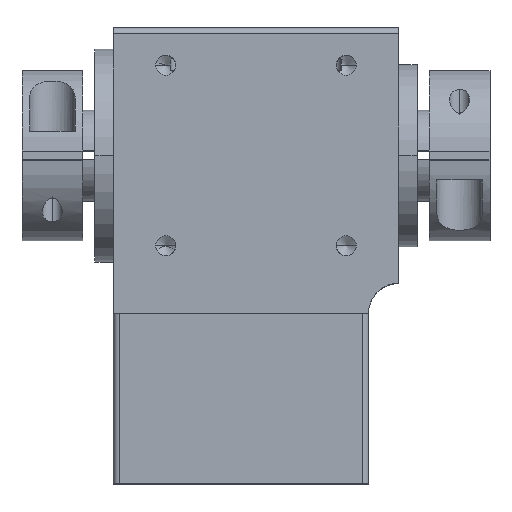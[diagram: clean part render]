
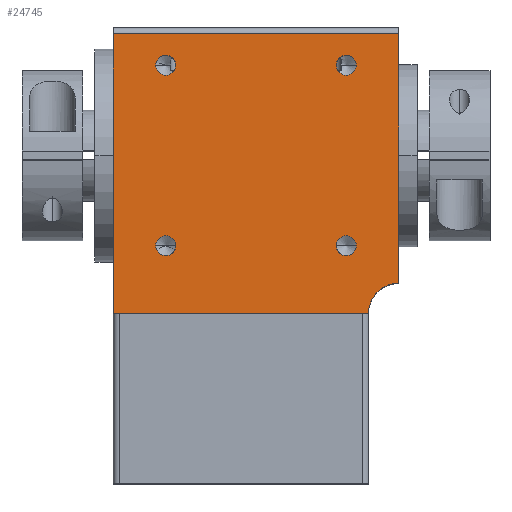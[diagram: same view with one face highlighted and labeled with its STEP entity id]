
A CAD part, top view. The second image highlights one B-rep face of the part: STEP entity #24745.
In plain terms, the highlighted planar face has unit normal (0, 0, 1).
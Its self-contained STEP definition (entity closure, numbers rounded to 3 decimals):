
#43 = ORIENTED_EDGE ( 'NONE', *, *, #6632, .F. ) ;
#171 = DIRECTION ( 'NONE',  ( 0., 0., 1. ) ) ;
#394 = VERTEX_POINT ( 'NONE', #6089 ) ;
#880 = VERTEX_POINT ( 'NONE', #6796 ) ;
#944 = FACE_BOUND ( 'NONE', #23118, .T. ) ;
#1065 = CARTESIAN_POINT ( 'NONE',  ( 42.999, -12.349, 21. ) ) ;
#1151 = CIRCLE ( 'NONE', #28722, 1.65 ) ;
#1329 = LINE ( 'NONE', #26981, #13124 ) ;
#1499 = VERTEX_POINT ( 'NONE', #7771 ) ;
#1557 = EDGE_CURVE ( 'NONE', #8214, #3549, #28753, .T. ) ;
#1926 = DIRECTION ( 'NONE',  ( 1., 0., 0. ) ) ;
#2414 = CARTESIAN_POINT ( 'NONE',  ( 13.301, -12.349, 21. ) ) ;
#3167 = DIRECTION ( 'NONE',  ( -1., 0., 0. ) ) ;
#3310 = DIRECTION ( 'NONE',  ( 0., 0., 1. ) ) ;
#3532 = DIRECTION ( 'NONE',  ( 0., 0., 1. ) ) ;
#3549 = VERTEX_POINT ( 'NONE', #27459 ) ;
#4368 = VERTEX_POINT ( 'NONE', #23194 ) ;
#4455 = ORIENTED_EDGE ( 'NONE', *, *, #13284, .T. ) ;
#4621 = DIRECTION ( 'NONE',  ( 0., -1., 0. ) ) ;
#4795 = CARTESIAN_POINT ( 'NONE',  ( 10.001, -12.349, 21. ) ) ;
#5255 = LINE ( 'NONE', #11683, #29557 ) ;
#5665 = CARTESIAN_POINT ( 'NONE',  ( 42.999, 17.349, 21. ) ) ;
#5843 = CIRCLE ( 'NONE', #6080, 1.65 ) ;
#6031 = CARTESIAN_POINT ( 'NONE',  ( 11.651, -12.349, 21. ) ) ;
#6080 = AXIS2_PLACEMENT_3D ( 'NONE', #20660, #6583, #23028 ) ;
#6089 = CARTESIAN_POINT ( 'NONE',  ( 3., -23.5, 21. ) ) ;
#6092 = ORIENTED_EDGE ( 'NONE', *, *, #1557, .F. ) ;
#6397 = VERTEX_POINT ( 'NONE', #2414 ) ;
#6441 = ORIENTED_EDGE ( 'NONE', *, *, #15487, .F. ) ;
#6549 = CARTESIAN_POINT ( 'NONE',  ( 41.349, -12.349, 21. ) ) ;
#6583 = DIRECTION ( 'NONE',  ( 0., 0., 1. ) ) ;
#6632 = EDGE_CURVE ( 'NONE', #394, #7435, #1329, .T. ) ;
#6643 = EDGE_LOOP ( 'NONE', ( #19310, #13927 ) ) ;
#6708 = CARTESIAN_POINT ( 'NONE',  ( 50., 22.5, 21. ) ) ;
#6796 = CARTESIAN_POINT ( 'NONE',  ( 39.699, 17.349, 21. ) ) ;
#7081 = EDGE_CURVE ( 'NONE', #25385, #6397, #7095, .T. ) ;
#7095 = CIRCLE ( 'NONE', #30418, 1.65 ) ;
#7135 = CIRCLE ( 'NONE', #22618, 1.65 ) ;
#7164 = DIRECTION ( 'NONE',  ( 0., 0., 1. ) ) ;
#7435 = VERTEX_POINT ( 'NONE', #11925 ) ;
#7574 = CIRCLE ( 'NONE', #8745, 1.65 ) ;
#7771 = CARTESIAN_POINT ( 'NONE',  ( 13.301, 17.349, 21. ) ) ;
#8214 = VERTEX_POINT ( 'NONE', #26608 ) ;
#8257 = DIRECTION ( 'NONE',  ( -1., 0., 0. ) ) ;
#8279 = CARTESIAN_POINT ( 'NONE',  ( 41.349, 17.349, 21. ) ) ;
#8389 = DIRECTION ( 'NONE',  ( 1., 0., 0. ) ) ;
#8666 = LINE ( 'NONE', #24786, #20458 ) ;
#8745 = AXIS2_PLACEMENT_3D ( 'NONE', #21258, #7164, #23622 ) ;
#8792 = AXIS2_PLACEMENT_3D ( 'NONE', #17417, #3310, #19792 ) ;
#8885 = DIRECTION ( 'NONE',  ( 1., 0., 0. ) ) ;
#8902 = ORIENTED_EDGE ( 'NONE', *, *, #19502, .F. ) ;
#10192 = VERTEX_POINT ( 'NONE', #6708 ) ;
#10636 = DIRECTION ( 'NONE',  ( 1., 0., 0. ) ) ;
#10749 = EDGE_CURVE ( 'NONE', #4368, #1499, #5843, .T. ) ;
#10862 = CIRCLE ( 'NONE', #28889, 1.65 ) ;
#11683 = CARTESIAN_POINT ( 'NONE',  ( 50., -23.5, 21. ) ) ;
#11925 = CARTESIAN_POINT ( 'NONE',  ( 3., 22.5, 21. ) ) ;
#13124 = VECTOR ( 'NONE', #29362, 1000. ) ;
#13284 = EDGE_CURVE ( 'NONE', #10192, #7435, #16806, .T. ) ;
#13509 = FACE_BOUND ( 'NONE', #14699, .T. ) ;
#13927 = ORIENTED_EDGE ( 'NONE', *, *, #26119, .F. ) ;
#13994 = AXIS2_PLACEMENT_3D ( 'NONE', #6031, #22477, #8389 ) ;
#14291 = CARTESIAN_POINT ( 'NONE',  ( 11.651, 17.349, 21. ) ) ;
#14484 = ORIENTED_EDGE ( 'NONE', *, *, #24585, .F. ) ;
#14503 = ORIENTED_EDGE ( 'NONE', *, *, #30523, .F. ) ;
#14699 = EDGE_LOOP ( 'NONE', ( #14732, #19360 ) ) ;
#14732 = ORIENTED_EDGE ( 'NONE', *, *, #29674, .F. ) ;
#14765 = VERTEX_POINT ( 'NONE', #5665 ) ;
#15301 = VERTEX_POINT ( 'NONE', #24979 ) ;
#15487 = EDGE_CURVE ( 'NONE', #14765, #880, #7574, .T. ) ;
#16059 = DIRECTION ( 'NONE',  ( 0., 0., 1. ) ) ;
#16669 = DIRECTION ( 'NONE',  ( 1., 0., 0. ) ) ;
#16806 = LINE ( 'NONE', #24735, #28563 ) ;
#17206 = AXIS2_PLACEMENT_3D ( 'NONE', #28996, #17272, #3167 ) ;
#17272 = DIRECTION ( 'NONE',  ( 0., 0., -1. ) ) ;
#17417 = CARTESIAN_POINT ( 'NONE',  ( 50., -23.5, 21. ) ) ;
#17643 = CARTESIAN_POINT ( 'NONE',  ( 11.651, -12.349, 21. ) ) ;
#17921 = EDGE_CURVE ( 'NONE', #10192, #8214, #5255, .T. ) ;
#18414 = EDGE_CURVE ( 'NONE', #27974, #15301, #7135, .T. ) ;
#19037 = FACE_OUTER_BOUND ( 'NONE', #25648, .T. ) ;
#19310 = ORIENTED_EDGE ( 'NONE', *, *, #18414, .F. ) ;
#19360 = ORIENTED_EDGE ( 'NONE', *, *, #7081, .F. ) ;
#19502 = EDGE_CURVE ( 'NONE', #880, #14765, #1151, .T. ) ;
#19792 = DIRECTION ( 'NONE',  ( 1., 0., 0. ) ) ;
#19994 = DIRECTION ( 'NONE',  ( 1., 0., 0. ) ) ;
#20047 = DIRECTION ( 'NONE',  ( -1., 0., 0. ) ) ;
#20458 = VECTOR ( 'NONE', #20047, 1000. ) ;
#20660 = CARTESIAN_POINT ( 'NONE',  ( 11.651, 17.349, 21. ) ) ;
#21258 = CARTESIAN_POINT ( 'NONE',  ( 41.349, 17.349, 21. ) ) ;
#21792 = EDGE_LOOP ( 'NONE', ( #6441, #8902 ) ) ;
#22477 = DIRECTION ( 'NONE',  ( 0., 0., 1. ) ) ;
#22618 = AXIS2_PLACEMENT_3D ( 'NONE', #6549, #22994, #8885 ) ;
#22717 = CIRCLE ( 'NONE', #27249, 1.65 ) ;
#22994 = DIRECTION ( 'NONE',  ( 0., 0., 1. ) ) ;
#23028 = DIRECTION ( 'NONE',  ( 1., 0., 0. ) ) ;
#23118 = EDGE_LOOP ( 'NONE', ( #14484, #25914 ) ) ;
#23194 = CARTESIAN_POINT ( 'NONE',  ( 10.001, 17.349, 21. ) ) ;
#23622 = DIRECTION ( 'NONE',  ( 1., 0., 0. ) ) ;
#24277 = PLANE ( 'NONE',  #17206 ) ;
#24585 = EDGE_CURVE ( 'NONE', #1499, #4368, #22717, .T. ) ;
#24588 = ORIENTED_EDGE ( 'NONE', *, *, #17921, .F. ) ;
#24735 = CARTESIAN_POINT ( 'NONE',  ( 53., 22.5, 21. ) ) ;
#24745 = ADVANCED_FACE ( 'NONE', ( #25291, #26026, #13509, #944, #19037 ), #24277, .F. ) ;
#24759 = DIRECTION ( 'NONE',  ( 0., 0., 1. ) ) ;
#24786 = CARTESIAN_POINT ( 'NONE',  ( 53., -23.5, 21. ) ) ;
#24979 = CARTESIAN_POINT ( 'NONE',  ( 39.699, -12.349, 21. ) ) ;
#25291 = FACE_BOUND ( 'NONE', #21792, .T. ) ;
#25385 = VERTEX_POINT ( 'NONE', #4795 ) ;
#25648 = EDGE_LOOP ( 'NONE', ( #24588, #4455, #43, #14503, #6092 ) ) ;
#25914 = ORIENTED_EDGE ( 'NONE', *, *, #10749, .F. ) ;
#26026 = FACE_BOUND ( 'NONE', #6643, .T. ) ;
#26119 = EDGE_CURVE ( 'NONE', #15301, #27974, #10862, .T. ) ;
#26608 = CARTESIAN_POINT ( 'NONE',  ( 50., -18.5, 21. ) ) ;
#26981 = CARTESIAN_POINT ( 'NONE',  ( 3., -23.5, 21. ) ) ;
#27249 = AXIS2_PLACEMENT_3D ( 'NONE', #14291, #171, #16669 ) ;
#27459 = CARTESIAN_POINT ( 'NONE',  ( 45., -23.5, 21. ) ) ;
#27974 = VERTEX_POINT ( 'NONE', #1065 ) ;
#28563 = VECTOR ( 'NONE', #8257, 1000. ) ;
#28722 = AXIS2_PLACEMENT_3D ( 'NONE', #8279, #24759, #10636 ) ;
#28753 = CIRCLE ( 'NONE', #8792, 5. ) ;
#28889 = AXIS2_PLACEMENT_3D ( 'NONE', #30161, #16059, #1926 ) ;
#28941 = CIRCLE ( 'NONE', #13994, 1.65 ) ;
#28996 = CARTESIAN_POINT ( 'NONE',  ( 53., -23.5, 21. ) ) ;
#29362 = DIRECTION ( 'NONE',  ( 0., 1., 0. ) ) ;
#29557 = VECTOR ( 'NONE', #4621, 1000. ) ;
#29674 = EDGE_CURVE ( 'NONE', #6397, #25385, #28941, .T. ) ;
#30161 = CARTESIAN_POINT ( 'NONE',  ( 41.349, -12.349, 21. ) ) ;
#30418 = AXIS2_PLACEMENT_3D ( 'NONE', #17643, #3532, #19994 ) ;
#30523 = EDGE_CURVE ( 'NONE', #3549, #394, #8666, .T. ) ;
